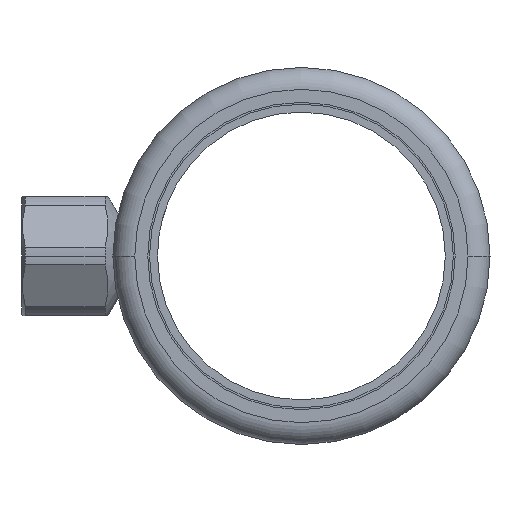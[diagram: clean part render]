
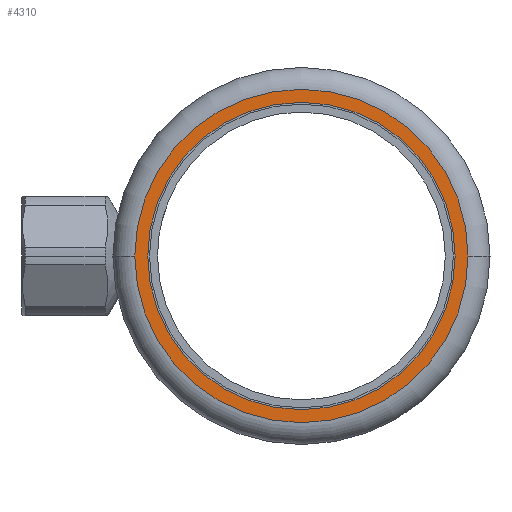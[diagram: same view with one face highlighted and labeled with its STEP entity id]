
A CAD part, left-side view. The second image highlights one B-rep face of the part: STEP entity #4310.
In plain terms, the highlighted planar face has unit normal (-1, 0, 0) as drawn and (1, 0, 0) by its records, which use the part's own axes.
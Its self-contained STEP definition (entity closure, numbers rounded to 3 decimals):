
#120=CARTESIAN_POINT('',(63.,-38.5,0.));
#130=VERTEX_POINT('',#120);
#160=CARTESIAN_POINT('',(63.,0.,0.));
#170=DIRECTION('',(1.,0.,0.));
#180=DIRECTION('',(0.,-1.,0.));
#190=AXIS2_PLACEMENT_3D('',#160,#170,#180);
#200=CIRCLE('',#190,38.5);
#210=CARTESIAN_POINT('',(63.,38.5,0.));
#220=VERTEX_POINT('',#210);
#230=EDGE_CURVE('',#220,#130,#200,.T.);
#4060=CARTESIAN_POINT('',(63.,-40.1,0.));
#4070=DIRECTION('',(-1.,0.,0.));
#4080=DIRECTION('',(0.,-1.,0.));
#4090=AXIS2_PLACEMENT_3D('',#4060,#4070,#4080);
#4100=PLANE('',#4090);
#4110=EDGE_CURVE('',#130,#220,#200,.T.);
#4120=ORIENTED_EDGE('',*,*,#4110,.F.);
#4130=ORIENTED_EDGE('',*,*,#230,.F.);
#4140=EDGE_LOOP('',(#4130,#4120));
#4150=FACE_BOUND('',#4140,.T.);
#4160=CARTESIAN_POINT('',(63.,0.,0.));
#4170=DIRECTION('',(1.,0.,0.));
#4180=DIRECTION('',(0.,1.,0.));
#4190=AXIS2_PLACEMENT_3D('',#4160,#4170,#4180);
#4200=CIRCLE('',#4190,41.75);
#4210=CARTESIAN_POINT('',(63.,41.75,0.));
#4220=VERTEX_POINT('',#4210);
#4230=CARTESIAN_POINT('',(63.,-41.75,0.));
#4240=VERTEX_POINT('',#4230);
#4250=EDGE_CURVE('',#4220,#4240,#4200,.T.);
#4260=ORIENTED_EDGE('',*,*,#4250,.T.);
#4270=EDGE_CURVE('',#4240,#4220,#4200,.T.);
#4280=ORIENTED_EDGE('',*,*,#4270,.T.);
#4290=EDGE_LOOP('',(#4280,#4260));
#4300=FACE_OUTER_BOUND('',#4290,.T.);
#4310=ADVANCED_FACE('',(#4150,#4300),#4100,.F.);
